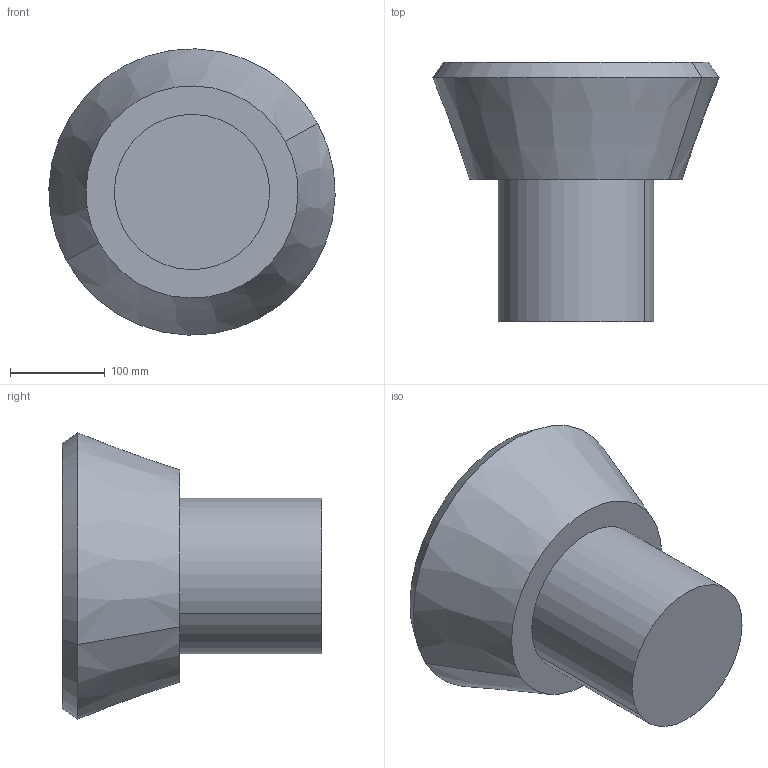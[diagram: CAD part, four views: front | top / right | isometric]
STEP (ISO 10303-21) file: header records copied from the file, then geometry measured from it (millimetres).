
FILE_DESCRIPTION(('CATIA V5 STEP Exchange'),'2;1');
FILE_NAME('C:\_Andres\UNIVERSIDAD\IQS\ASIGNATURAS\DAO\EXF\EXF-15161c\1original\Sala_García_Ej09-optimiza_v22.stp','2016-03-04T21:55:30+00:00',('none'),('none'),'CATIA Version 5 Release 20 SP 1 (IN-10)','CATIA V5 STEP AP203','none');
FILE_SCHEMA(('CONFIG_CONTROL_DESIGN'));
Length unit declared in the file: millimetre
Products named in the file (1): Sala_García_Ej09-optimiza_v22
Bounding box: 302.28 x 274.04 x 302.28 mm (x, y, z)
Volume: 10139056.4 mm3; surface area: 295414 mm2
Topology: 1 solids, 2 shells, 13 faces, 22 edges, 14 vertices
Faces by surface type: plane 5, cylinder 4, cone 4
Entity records: 324 total; most frequent: CARTESIAN_POINT 47, ORIENTED_EDGE 44, DIRECTION 42, AXIS2_PLACEMENT_3D 25, EDGE_CURVE 22, CIRCLE 14, EDGE_LOOP 14, VERTEX_POINT 14
